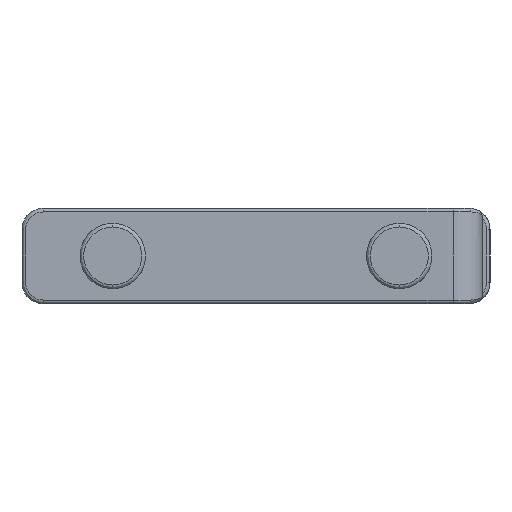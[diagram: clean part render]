
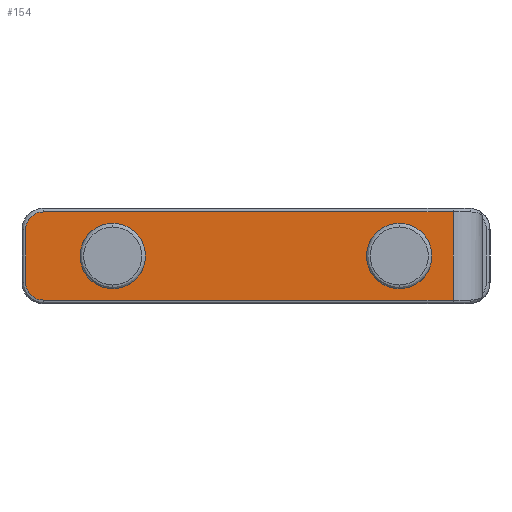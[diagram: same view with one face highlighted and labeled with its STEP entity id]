
A CAD part, left-side view. The second image highlights one B-rep face of the part: STEP entity #154.
In plain terms, the highlighted planar face has unit normal (-1, 0, 0).
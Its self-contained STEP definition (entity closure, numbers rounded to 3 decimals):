
#54 = ORIENTED_EDGE ( 'NONE', *, *, #2874, .F. ) ;
#57 = EDGE_LOOP ( 'NONE', ( #54, #2853 ) ) ;
#58 = EDGE_CURVE ( 'NONE', #2792, #87, #533, .T. ) ;
#87 = VERTEX_POINT ( 'NONE', #616 ) ;
#114 = ORIENTED_EDGE ( 'NONE', *, *, #2801, .F. ) ;
#130 = VERTEX_POINT ( 'NONE', #710 ) ;
#132 = EDGE_CURVE ( 'NONE', #130, #133, #709, .T. ) ;
#133 = VERTEX_POINT ( 'NONE', #704 ) ;
#152 = VERTEX_POINT ( 'NONE', #727 ) ;
#154 = ADVANCED_FACE ( 'NONE', ( #721, #720, #719 ), #718, .F. ) ;
#155 = EDGE_LOOP ( 'NONE', ( #114, #2662 ) ) ;
#217 = ORIENTED_EDGE ( 'NONE', *, *, #2789, .T. ) ;
#530 = DIRECTION ( 'NONE',  ( 0., -1., 0. ) ) ;
#531 = VECTOR ( 'NONE', #530, 1000. ) ;
#532 = CARTESIAN_POINT ( 'NONE',  ( -558.2, -26.82, -6. ) ) ;
#533 = LINE ( 'NONE', #532, #531 ) ;
#616 = CARTESIAN_POINT ( 'NONE',  ( -558.2, -26.82, -6. ) ) ;
#704 = CARTESIAN_POINT ( 'NONE',  ( -558.2, -19.5, -4.45 ) ) ;
#705 = DIRECTION ( 'NONE',  ( 0., 0., -1. ) ) ;
#706 = DIRECTION ( 'NONE',  ( -1., 0., 0. ) ) ;
#707 = CARTESIAN_POINT ( 'NONE',  ( -558.2, -19.5, 0. ) ) ;
#708 = AXIS2_PLACEMENT_3D ( 'NONE', #707, #706, #705 ) ;
#709 = CIRCLE ( 'NONE', #708, 4.45 ) ;
#710 = CARTESIAN_POINT ( 'NONE',  ( -558.2, -19.5, 4.45 ) ) ;
#714 = DIRECTION ( 'NONE',  ( 0., 0., -1. ) ) ;
#715 = DIRECTION ( 'NONE',  ( 1., 0., 0. ) ) ;
#716 = CARTESIAN_POINT ( 'NONE',  ( -558.2, -27.9, -2.9 ) ) ;
#717 = AXIS2_PLACEMENT_3D ( 'NONE', #716, #715, #714 ) ;
#718 = PLANE ( 'NONE',  #717 ) ;
#719 = FACE_BOUND ( 'NONE', #57, .T. ) ;
#720 = FACE_OUTER_BOUND ( 'NONE', #2664, .T. ) ;
#721 = FACE_BOUND ( 'NONE', #155, .T. ) ;
#727 = CARTESIAN_POINT ( 'NONE',  ( -558.2, 19.5, -4.45 ) ) ;
#1337 = DIRECTION ( 'NONE',  ( 0., 1., 0. ) ) ;
#1338 = VECTOR ( 'NONE', #1337, 1000. ) ;
#1339 = CARTESIAN_POINT ( 'NONE',  ( -558.2, 28.95, 6. ) ) ;
#1340 = LINE ( 'NONE', #1339, #1338 ) ;
#1341 = CARTESIAN_POINT ( 'NONE',  ( -558.2, 31.35, 3.6 ) ) ;
#1349 = CARTESIAN_POINT ( 'NONE',  ( -558.2, 28.95, 6. ) ) ;
#1350 = CARTESIAN_POINT ( 'NONE',  ( -558.2, -26.82, 6. ) ) ;
#1351 = DIRECTION ( 'NONE',  ( 0., 0., -1. ) ) ;
#1352 = VECTOR ( 'NONE', #1351, 1000. ) ;
#1353 = CARTESIAN_POINT ( 'NONE',  ( -558.2, -26.82, -7.5 ) ) ;
#1354 = LINE ( 'NONE', #1353, #1352 ) ;
#1516 = CARTESIAN_POINT ( 'NONE',  ( -558.2, 19.5, 4.45 ) ) ;
#1529 = CARTESIAN_POINT ( 'NONE',  ( -558.2, 28.95, -6. ) ) ;
#1530 = DIRECTION ( 'NONE',  ( 0., 0., -1. ) ) ;
#1531 = DIRECTION ( 'NONE',  ( -1., 0., 0. ) ) ;
#1532 = CARTESIAN_POINT ( 'NONE',  ( -558.2, 28.95, -3.6 ) ) ;
#1533 = AXIS2_PLACEMENT_3D ( 'NONE', #1532, #1531, #1530 ) ;
#1534 = CIRCLE ( 'NONE', #1533, 2.4 ) ;
#1535 = CARTESIAN_POINT ( 'NONE',  ( -558.2, 31.35, -3.6 ) ) ;
#1536 = DIRECTION ( 'NONE',  ( 0., 0., -1. ) ) ;
#1537 = VECTOR ( 'NONE', #1536, 1000. ) ;
#1538 = CARTESIAN_POINT ( 'NONE',  ( -558.2, 31.35, -3.6 ) ) ;
#1539 = LINE ( 'NONE', #1538, #1537 ) ;
#1577 = DIRECTION ( 'NONE',  ( 0., 0., -1. ) ) ;
#1578 = DIRECTION ( 'NONE',  ( -1., 0., 0. ) ) ;
#1579 = CARTESIAN_POINT ( 'NONE',  ( -558.2, 19.5, 0. ) ) ;
#1580 = AXIS2_PLACEMENT_3D ( 'NONE', #1579, #1578, #1577 ) ;
#1581 = CIRCLE ( 'NONE', #1580, 4.45 ) ;
#1762 = DIRECTION ( 'NONE',  ( 0., 0., -1. ) ) ;
#1763 = DIRECTION ( 'NONE',  ( -1., 0., 0. ) ) ;
#1764 = CARTESIAN_POINT ( 'NONE',  ( -558.2, -19.5, 0. ) ) ;
#1765 = AXIS2_PLACEMENT_3D ( 'NONE', #1764, #1763, #1762 ) ;
#1766 = CIRCLE ( 'NONE', #1765, 4.45 ) ;
#1769 = DIRECTION ( 'NONE',  ( 0., 0., -1. ) ) ;
#1770 = DIRECTION ( 'NONE',  ( -1., 0., 0. ) ) ;
#1771 = CARTESIAN_POINT ( 'NONE',  ( -558.2, 19.5, 0. ) ) ;
#1772 = AXIS2_PLACEMENT_3D ( 'NONE', #1771, #1770, #1769 ) ;
#1773 = CIRCLE ( 'NONE', #1772, 4.45 ) ;
#2410 = CARTESIAN_POINT ( 'NONE',  ( -558.2, 28.95, 3.6 ) ) ;
#2460 = DIRECTION ( 'NONE',  ( 0., 0., -1. ) ) ;
#2461 = DIRECTION ( 'NONE',  ( -1., 0., 0. ) ) ;
#2462 = AXIS2_PLACEMENT_3D ( 'NONE', #2410, #2461, #2460 ) ;
#2463 = CIRCLE ( 'NONE', #2462, 2.4 ) ;
#2662 = ORIENTED_EDGE ( 'NONE', *, *, #2864, .F. ) ;
#2663 = ORIENTED_EDGE ( 'NONE', *, *, #2665, .F. ) ;
#2664 = EDGE_LOOP ( 'NONE', ( #2663, #2666, #2669, #217, #2793, #3174 ) ) ;
#2665 = EDGE_CURVE ( 'NONE', #2667, #87, #1354, .T. ) ;
#2666 = ORIENTED_EDGE ( 'NONE', *, *, #2696, .T. ) ;
#2667 = VERTEX_POINT ( 'NONE', #1350 ) ;
#2669 = ORIENTED_EDGE ( 'NONE', *, *, #3175, .T. ) ;
#2670 = VERTEX_POINT ( 'NONE', #1349 ) ;
#2695 = VERTEX_POINT ( 'NONE', #1341 ) ;
#2696 = EDGE_CURVE ( 'NONE', #2667, #2670, #1340, .T. ) ;
#2767 = VERTEX_POINT ( 'NONE', #1516 ) ;
#2789 = EDGE_CURVE ( 'NONE', #2695, #2790, #1539, .T. ) ;
#2790 = VERTEX_POINT ( 'NONE', #1535 ) ;
#2791 = EDGE_CURVE ( 'NONE', #2790, #2792, #1534, .T. ) ;
#2792 = VERTEX_POINT ( 'NONE', #1529 ) ;
#2793 = ORIENTED_EDGE ( 'NONE', *, *, #2791, .T. ) ;
#2801 = EDGE_CURVE ( 'NONE', #152, #2767, #1581, .T. ) ;
#2853 = ORIENTED_EDGE ( 'NONE', *, *, #132, .F. ) ;
#2864 = EDGE_CURVE ( 'NONE', #2767, #152, #1773, .T. ) ;
#2874 = EDGE_CURVE ( 'NONE', #133, #130, #1766, .T. ) ;
#3174 = ORIENTED_EDGE ( 'NONE', *, *, #58, .T. ) ;
#3175 = EDGE_CURVE ( 'NONE', #2670, #2695, #2463, .T. ) ;
